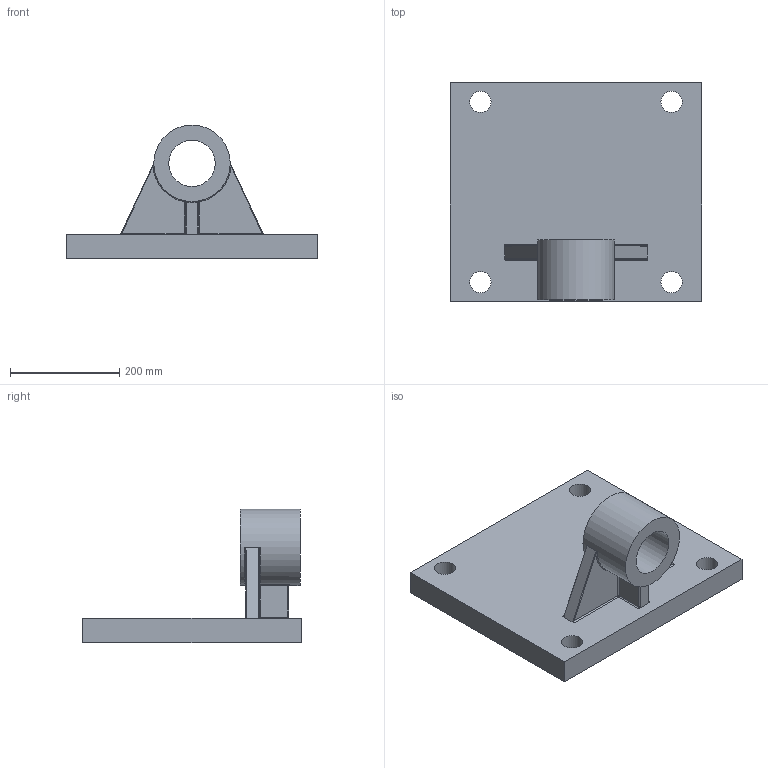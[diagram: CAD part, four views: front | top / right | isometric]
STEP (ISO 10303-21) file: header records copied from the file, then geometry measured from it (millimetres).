
FILE_DESCRIPTION((''),'2;1');
FILE_NAME('D:\PAWEŁ\ZLECENIA\DualSystem\001 Modele\DKAB120_\DK_120_STEP\AT_120.stp','2011-12-19T15:36:13',('Pawe'),(''),'Autodesk Inventor 2009','Autodesk Inventor 2009','');
FILE_SCHEMA(('AUTOMOTIVE_DESIGN { 1 0 10303 214 1 1 1 1 }'));
Length unit declared in the file: millimetre
Products named in the file (1): AT_120
Bounding box: 460 x 400 x 245 mm (x, y, z)
Volume: 9676027.2 mm3; surface area: 589506.2 mm2
Topology: 1 solids, 1 shells, 59 faces, 142 edges, 82 vertices
Faces by surface type: cylinder 21, bspline 20, plane 16, torus 2
Full cylindrical faces by diameter (mm): 39 x4, 85 x1, 140 x1
Entity records: 3618 total; most frequent: CARTESIAN_POINT 2330, ORIENTED_EDGE 262, DIRECTION 243, EDGE_CURVE 131, AXIS2_PLACEMENT_3D 98, VERTEX_POINT 82, EDGE_LOOP 77, FACE_OUTER_BOUND 59
